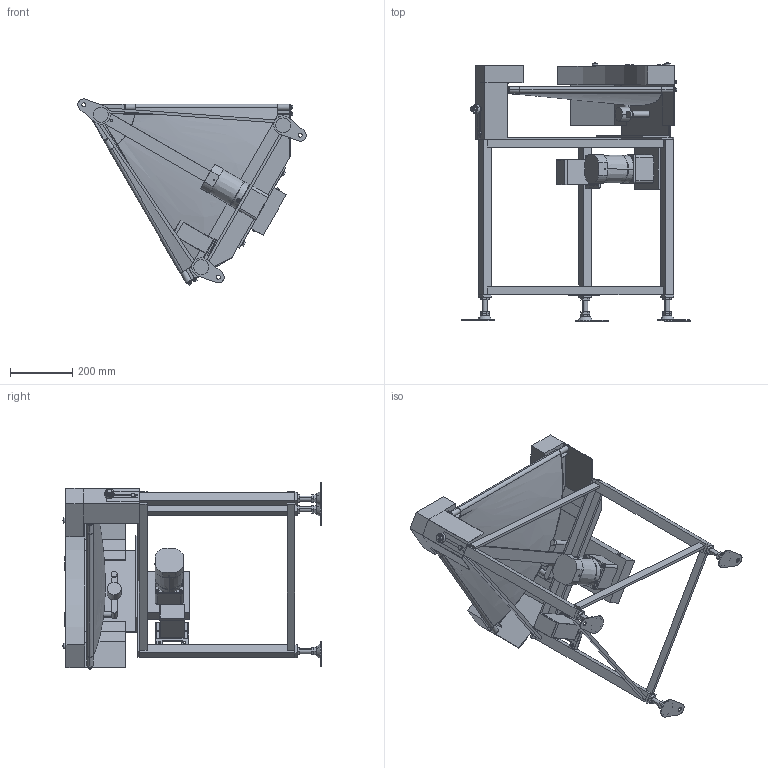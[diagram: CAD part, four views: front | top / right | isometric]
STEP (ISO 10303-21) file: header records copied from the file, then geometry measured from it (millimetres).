
FILE_DESCRIPTION (( 'STEP AP214' ), '1' );
FILE_NAME ('MMBC3-UD-309-400-60°-R-IV-120.STEP', '2023-01-23T01:39:21', ( '' ), ( '' ), 'SwSTEP 2.0', 'SolidWorks 2017', '' );
FILE_SCHEMA (( 'AUTOMOTIVE_DESIGN' ));
Length unit declared in the file: millimetre
Products named in the file (1): MMBC3-UD-309-400-60°-R-IV-120
Bounding box: 731.73 x 827.92 x 596.87 mm (x, y, z)
Volume: 13466597.9 mm3; surface area: 2801223.4 mm2
Topology: 36 solids, 41 shells, 1243 faces, 2988 edges, 1916 vertices
Faces by surface type: plane 780, cylinder 318, bspline 63, cone 54, torus 18, sphere 10
Entity records: 44276 total; most frequent: CARTESIAN_POINT 14916, ORIENTED_EDGE 5952, DIRECTION 5917, EDGE_CURVE 2976, AXIS2_PLACEMENT_3D 2014, VERTEX_POINT 1916, LINE 1889, VECTOR 1889
